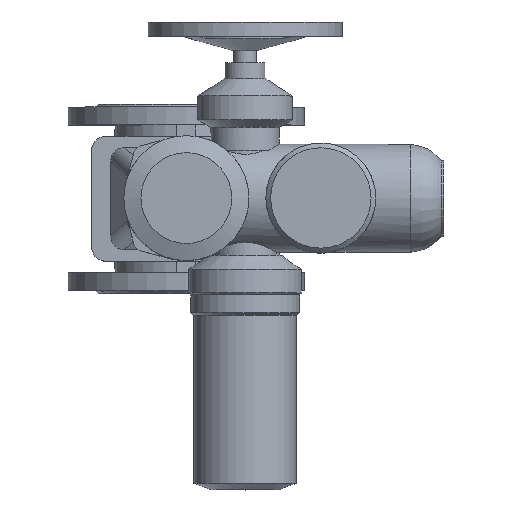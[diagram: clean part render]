
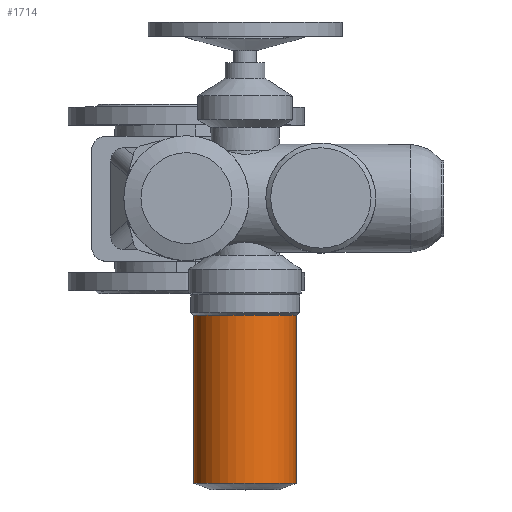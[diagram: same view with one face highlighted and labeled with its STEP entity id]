
A CAD part, top view. The second image highlights one B-rep face of the part: STEP entity #1714.
In plain terms, the highlighted cylindrical face has radius 54 mm (diameter 108 mm), a full revolution.
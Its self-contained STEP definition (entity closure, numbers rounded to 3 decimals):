
#1714=ADVANCED_FACE('',(#3863,#3865),#3867,.T.);
#3863=FACE_OUTER_BOUND('',#3864,.T.);
#3864=EDGE_LOOP('',(#4926));
#3865=FACE_OUTER_BOUND('',#3866,.T.);
#3866=EDGE_LOOP('',(#4927));
#3867=CYLINDRICAL_SURFACE('',#3868,54.);
#3868=AXIS2_PLACEMENT_3D('',#3869,#3870,#3871);
#3869=CARTESIAN_POINT('',(62.,-301.085,399.));
#3870=DIRECTION('',(0.,1.,0.));
#3871=DIRECTION('',(0.,0.,1.));
#4926=ORIENTED_EDGE('',*,*,#5487,.F.);
#4927=ORIENTED_EDGE('',*,*,#5489,.T.);
#5487=EDGE_CURVE('',#6314,#6314,#6315,.T.);
#5489=EDGE_CURVE('',#6318,#6318,#6319,.T.);
#6314=VERTEX_POINT('',#10372);
#6315=CIRCLE('',#10373,54.);
#6318=VERTEX_POINT('',#10382);
#6319=CIRCLE('',#10383,54.);
#10372=CARTESIAN_POINT('',(62.,-123.505,453.));
#10373=AXIS2_PLACEMENT_3D('',#10374,#10375,#10376);
#10374=CARTESIAN_POINT('',(62.,-123.505,399.));
#10375=DIRECTION('',(0.,1.,0.));
#10376=DIRECTION('',(0.,0.,1.));
#10382=CARTESIAN_POINT('',(62.,-301.085,453.));
#10383=AXIS2_PLACEMENT_3D('',#10384,#10385,#10386);
#10384=CARTESIAN_POINT('',(62.,-301.085,399.));
#10385=DIRECTION('',(0.,1.,0.));
#10386=DIRECTION('',(0.,0.,1.));
